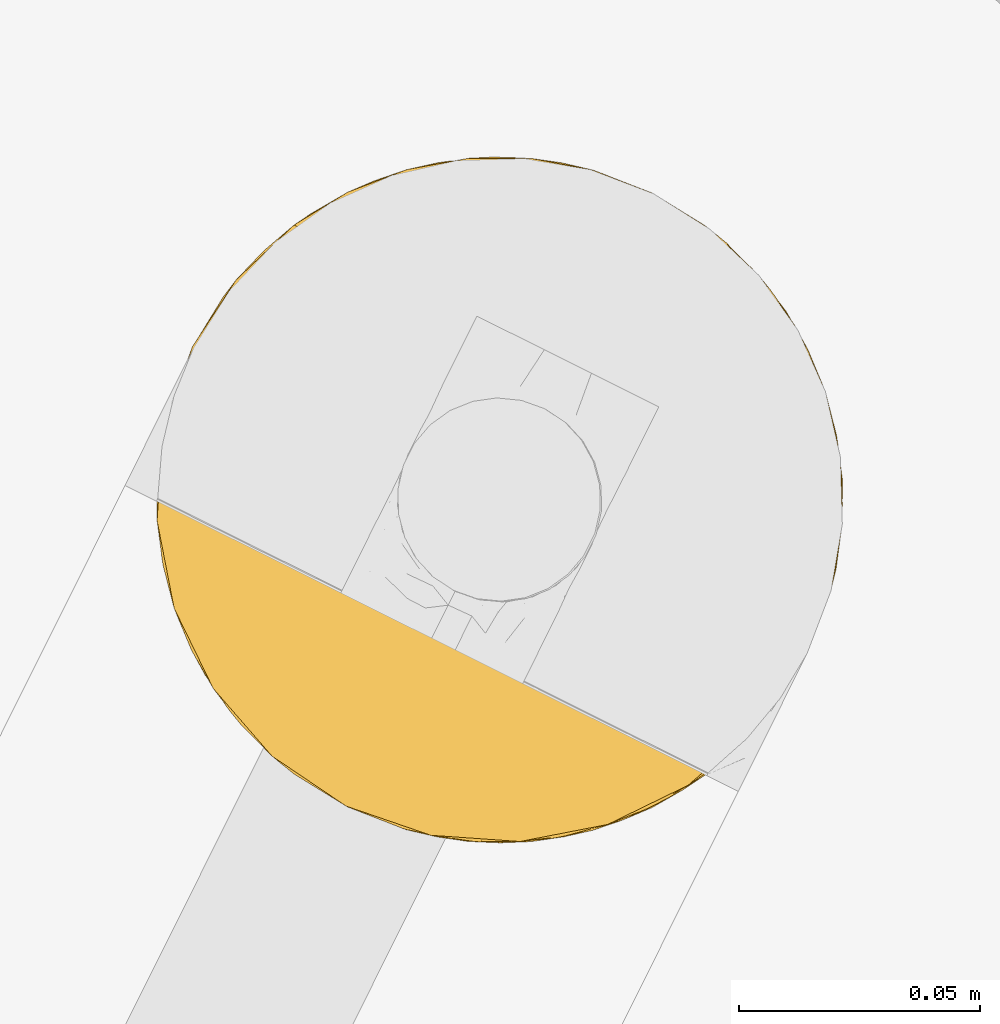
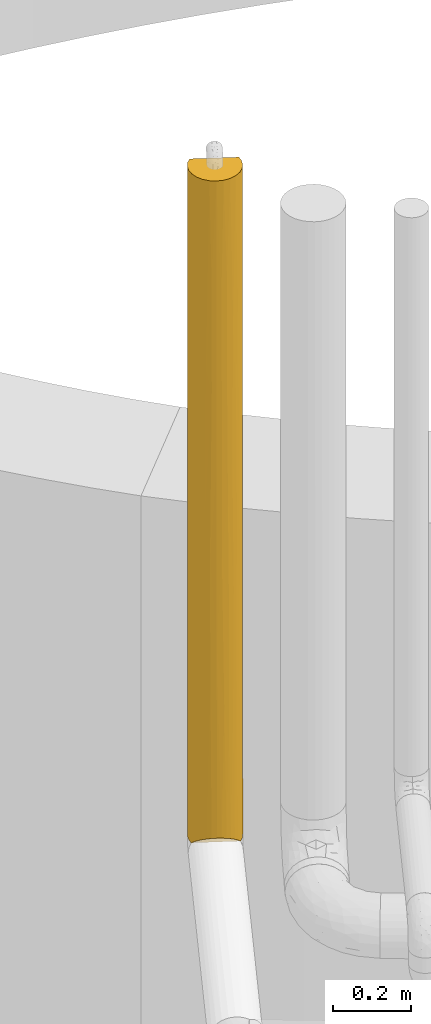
# One storey, part 16 of 47: 1 covering.
"""IFC2X3 building model written with IfcOpenShell, lengths in metres."""

from ifc_helpers import new_model, entity, si_unit, converted_unit, derived_unit, direction, frame, origin, place, context, subcontext, project, spatial, faceted_brep, element, save


model = new_model("IFC2X3")

# Units and contexts
model_context = context("Model", 3, precision=1e-05, world=origin(), true_north=direction((0.894925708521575, 0.446215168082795)))
context_of_model = context(None, 3, precision=1e-05, world=origin(), true_north=direction((0.894925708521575, 0.446215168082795)))
body_context = subcontext(model_context, "Body", "Model", "MODEL_VIEW")
ifc_project = project(units=[si_unit("LENGTHUNIT", "METRE"), si_unit("AREAUNIT", "SQUARE_METRE"), si_unit("VOLUMEUNIT", "CUBIC_METRE"), converted_unit("PLANEANGLEUNIT", "DEGREE", entity("IfcRatioMeasure", 0.0174532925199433), si_unit("PLANEANGLEUNIT", "RADIAN"), dimensions=[0, 0, 0, 0, 0, 0, 0]), si_unit("MASSUNIT", "GRAM", prefix="KILO"), si_unit("TIMEUNIT", "SECOND"), si_unit("FREQUENCYUNIT", "HERTZ"), si_unit("THERMODYNAMICTEMPERATUREUNIT", "DEGREE_CELSIUS"), derived_unit("THERMALTRANSMITTANCEUNIT", [(si_unit("MASSUNIT", "GRAM", prefix="KILO"), 1), (si_unit("THERMODYNAMICTEMPERATUREUNIT", "KELVIN"), -1), (si_unit("TIMEUNIT", "SECOND"), -3)]), derived_unit("VOLUMETRICFLOWRATEUNIT", [(si_unit("LENGTHUNIT", "METRE"), 3), (si_unit("TIMEUNIT", "SECOND"), -1)]), si_unit("ELECTRICCURRENTUNIT", "AMPERE"), si_unit("ELECTRICVOLTAGEUNIT", "VOLT"), si_unit("POWERUNIT", "WATT"), si_unit("FORCEUNIT", "NEWTON", prefix="KILO"), si_unit("ILLUMINANCEUNIT", "LUX"), si_unit("LUMINOUSFLUXUNIT", "LUMEN"), si_unit("LUMINOUSINTENSITYUNIT", "CANDELA"), si_unit("PRESSUREUNIT", "PASCAL")], contexts=[model_context, context_of_model])

# Site, building, storey
site_placement = place(None, frame((218.228324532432, 584.720189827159, 0.0), z_axis=(0.0, 0.0, 1.0), x_axis=(0.446215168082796, 0.894925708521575, 0.0)))
site = spatial("IfcSite", under=ifc_project, at=site_placement, Name="Default", CompositionType="ELEMENT")
building_placement = place(site_placement, origin())
building = spatial("IfcBuilding", under=site, at=building_placement, CompositionType="ELEMENT")
storey_placement = place(building_placement, frame((0.0, 0.0, 4.69)))
storey = spatial("IfcBuildingStorey", under=building, at=storey_placement, Name="1 - Piano Primo", CompositionType="ELEMENT", Elevation=4.69)

# Covering
covering_placement = place(storey_placement, frame((66.896271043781, -1.84654938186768, 2.99039506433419)))
element("IfcCovering", 1, at=covering_placement, inside=storey, Name="Isolamento tubazione:Default", ObjectType="Isolamento tubazione:Default", PredefinedType="INSULATION", context=body_context, shape_type="Brep", body=[
    faceted_brep([(0.0726767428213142, 0.00159527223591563, 0.00161635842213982), (0.0562242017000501, 0.00352552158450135, 0.00161627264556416), (0.0406763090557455, 0.00920583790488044, 0.00161557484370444), (0.0406763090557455, 0.13614870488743, 0.00159527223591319), (0.0562242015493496, 0.141829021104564, 0.00159415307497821), (0.0726767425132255, 0.143759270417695, 0.00159362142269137), (0.0910741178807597, 0.141337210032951, 0.00159375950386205), (0.108217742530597, 0.134236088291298, 0.00159466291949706), (0.122939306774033, 0.122939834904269, 0.00159627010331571), (0.1342355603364, 0.10821827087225, 0.00159847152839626), (0.141336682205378, 0.0910746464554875, 0.00160111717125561), (0.143758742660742, 0.0726772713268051, 0.00160402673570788), (0.141336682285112, 0.0542798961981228, 0.00160700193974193), (0.134235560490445, 0.0371362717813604, 0.00160984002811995), (0.122939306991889, 0.0224147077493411, 0.0016123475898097), (0.108217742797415, 0.0111184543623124, 0.00161435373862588), (0.0910741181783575, 0.004017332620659, 0.00161572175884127), (0.00162314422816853, 0.0730124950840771, 2.09760589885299), (0.00404520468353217, 0.054615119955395, 2.09760880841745), (0.0111463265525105, 0.0374714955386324, 2.09761145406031), (0.0224425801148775, 0.0227499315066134, 2.09761365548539), (0.0371641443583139, 0.0114536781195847, 2.09761526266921), (0.054307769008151, 0.00435255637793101, 2.09761616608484), (0.0727051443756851, 0.00193049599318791, 2.09761630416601), (0.0891547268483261, 0.00386004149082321, 2.09761577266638), (0.104700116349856, 0.00953830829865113, 2.09761465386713), (0.104711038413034, 0.136481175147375, 2.09759435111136), (0.0891606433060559, 0.142163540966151, 2.09759365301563), (0.0727051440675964, 0.144094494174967, 2.09759356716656), (0.0543077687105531, 0.141672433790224, 2.09759420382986), (0.0371641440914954, 0.13457131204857, 2.09759557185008), (0.022442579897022, 0.123275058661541, 2.09759757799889), (0.0111463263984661, 0.108553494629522, 2.09760008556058), (0.00404520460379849, 0.0914098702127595, 2.09760292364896), (0.132518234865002, 0.0344166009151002, 0.731956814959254), (0.136938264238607, 0.0424301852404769, 1.03441297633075), (0.128900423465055, 0.0293320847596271, 1.03197557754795), (0.141906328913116, 0.0567174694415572, 1.59183824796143), (0.139028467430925, 0.0474373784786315, 2.06328303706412), (0.136205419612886, 0.040990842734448, 1.50742583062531), (0.115954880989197, 0.016356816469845, 0.456089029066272), (0.129075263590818, 0.0294687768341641, 0.398552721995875), (0.123989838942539, 0.0235914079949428, 0.713105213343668), (0.109525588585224, 0.0121019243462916, 1.38326051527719), (0.0970877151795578, 0.00617994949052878, 1.68961158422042), (0.0911660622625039, 0.0042269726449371, 1.18494092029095), (0.109461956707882, 0.0121144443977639, 1.71949569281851), (0.115772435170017, 0.0164612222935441, 2.0865416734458), (0.133231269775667, 0.0357360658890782, 2.06908117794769), (0.128761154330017, 0.0292211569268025, 1.51180867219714), (0.125391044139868, 0.0252931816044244, 2.0769222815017), (0.120404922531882, 0.0202488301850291, 1.67237960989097), (0.142648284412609, 0.0602175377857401, 0.66113695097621), (0.141443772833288, 0.0547215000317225, 0.34530760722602), (0.143764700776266, 0.0727475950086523, 0.44130565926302), (0.0998827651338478, 0.00705467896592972, 0.305561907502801), (0.0875778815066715, 0.00325220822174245, 0.49516828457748), (0.121496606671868, 0.021202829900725, 1.29669352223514), (0.0726829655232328, 0.00166871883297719, 0.460844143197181), (0.0877146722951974, 0.00333666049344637, 0.845463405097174), (0.103688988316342, 0.00888285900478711, 1.08179074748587), (0.0998879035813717, 0.0071153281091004, 0.684773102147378), (0.114464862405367, 0.0153152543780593, 0.929855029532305), (0.141714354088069, 0.0558751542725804, 1.17536739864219), (0.143770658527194, 0.0728179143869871, 0.880980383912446), (0.14377863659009, 0.0729120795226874, 1.46975165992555), (0.072701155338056, 0.00188341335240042, 1.80323021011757), (0.143786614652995, 0.0730062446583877, 2.05852293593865), (0.14258695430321, 0.0600021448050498, 2.05972357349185), (0.0843980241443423, 0.00282919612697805, 1.65603684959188), (0.0726971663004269, 0.0018363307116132, 1.50884411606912), (0.0726926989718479, 0.00178360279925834, 1.17916073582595), (0.0726891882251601, 0.00174216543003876, 0.920071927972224), (0.138355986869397, 0.0455702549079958, 0.594893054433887), (0.143766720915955, 0.072771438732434, 0.590389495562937), (0.0726847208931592, 0.00168943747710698, 0.590388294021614), (0.072698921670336, 0.00185704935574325, 1.63838826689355), (0.0409934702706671, 0.00933949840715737, 1.75685499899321), (0.0294277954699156, 0.0165559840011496, 1.70139297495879), (0.0340119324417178, 0.0132484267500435, 1.29055426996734), (0.0245600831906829, 0.0204566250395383, 0.58098342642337), (0.0199881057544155, 0.0249675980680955, 0.0223015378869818), (0.0296053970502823, 0.0161326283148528, 0.0126855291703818), (0.0255604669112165, 0.0196350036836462, 1.05385200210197), (0.0371868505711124, 0.0112449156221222, 0.931240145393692), (0.0538764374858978, 0.0044101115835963, 1.7342073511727), (0.045494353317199, 0.00723639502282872, 1.44174933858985), (0.0603590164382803, 0.00289908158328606, 1.40877462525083), (0.00286682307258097, 0.0595025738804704, 0.923847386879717), (0.00792372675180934, 0.0435624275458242, 1.08522456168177), (0.00288435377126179, 0.059512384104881, 1.3635346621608), (0.00160325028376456, 0.0727776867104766, 0.62945715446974), (0.0015952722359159, 0.0726835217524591, 0.0406869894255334), (0.00279474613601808, 0.0596800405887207, 0.0394895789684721), (0.0163059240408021, 0.0296687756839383, 1.64905483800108), (0.0160829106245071, 0.0297452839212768, 0.435797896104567), (0.0174713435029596, 0.0280423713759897, 0.808252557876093), (0.00922764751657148, 0.0407707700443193, 0.741548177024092), (0.00635268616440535, 0.0471150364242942, 0.0359336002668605), (0.00908312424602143, 0.0409822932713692, 0.332754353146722), (0.00434152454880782, 0.0532006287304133, 0.447535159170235), (0.035663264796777, 0.0120868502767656, 0.563121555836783), (0.0531120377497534, 0.00448547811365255, 0.884774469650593), (0.0517553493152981, 0.00481526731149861, 0.436627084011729), (0.00161516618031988, 0.0729183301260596, 1.50883573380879), (0.00269017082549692, 0.0606590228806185, 1.74587928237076), (0.0121490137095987, 0.0354125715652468, 0.0301390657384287), (0.00676804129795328, 0.0464035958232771, 1.79788398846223), (0.00161122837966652, 0.0728718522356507, 1.2182308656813), (0.0145315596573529, 0.0320078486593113, 1.21852220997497), (0.0233531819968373, 0.0217353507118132, 1.40292104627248), (0.007024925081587, 0.0457041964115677, 1.43236913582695), (0.00161718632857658, 0.0729421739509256, 1.65792020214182), (0.0294270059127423, 0.129332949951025, 1.64312089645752), (0.0163066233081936, 0.116220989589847, 1.70065720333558), (0.0166184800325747, 0.116465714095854, 0.587364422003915), (0.0164793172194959, 0.116354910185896, 1.06724359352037), (0.0238813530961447, 0.124483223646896, 0.802487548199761), (0.00273363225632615, 0.0854723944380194, 1.43807297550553), (0.00702590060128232, 0.100119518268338, 1.50435900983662), (0.00283143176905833, 0.0860353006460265, 1.7811454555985), (0.0199881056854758, 0.120393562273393, 0.0222862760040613), (0.0121490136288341, 0.10995109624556, 0.0301271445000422), (0.045499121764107, 0.138635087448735, 1.7936480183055), (0.00917534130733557, 0.104696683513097, 0.591781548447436), (0.00347528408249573, 0.0889711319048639, 0.507411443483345), (0.00366725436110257, 0.0898134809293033, 0.923842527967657), (0.0609814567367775, 0.142860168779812, 0.443173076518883), (0.0482898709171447, 0.139508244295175, 0.409588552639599), (0.0358631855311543, 0.133532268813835, 0.322188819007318), (0.0358514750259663, 0.13358491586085, 0.715922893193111), (0.0249735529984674, 0.125437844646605, 0.426809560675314), (0.0578040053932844, 0.142437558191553, 1.60404164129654), (0.0454939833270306, 0.138574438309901, 1.41443682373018), (0.0727011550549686, 0.144047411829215, 1.80320931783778), (0.0726989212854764, 0.144021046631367, 1.63835986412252), (0.008442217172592, 0.103256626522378, 1.06490871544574), (0.0309171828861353, 0.130374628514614, 1.16936434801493), (0.0296053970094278, 0.129225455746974, 0.0126674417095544), (0.00635268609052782, 0.0982504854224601, 0.0359254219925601), (0.0027947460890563, 0.0856866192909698, 0.0394854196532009), (0.0726807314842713, 0.143806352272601, 0.295974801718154), (0.0576668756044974, 0.14235303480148, 1.25376055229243), (0.0426192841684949, 0.137257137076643, 1.07953846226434), (0.0542117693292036, 0.141461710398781, 0.914321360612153), (0.0128636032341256, 0.111273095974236, 1.36730024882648), (0.0213919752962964, 0.122098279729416, 1.38608461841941), (0.0726847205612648, 0.143853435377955, 0.590363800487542), (0.0726829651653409, 0.143832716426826, 0.460817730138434), (0.0726926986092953, 0.143947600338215, 1.17913397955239), (0.072689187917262, 0.143906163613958, 0.920049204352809), (0.0726971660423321, 0.144000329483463, 1.508825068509), (0.142691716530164, 0.0850307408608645, 0.353330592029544), (0.138356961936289, 0.0999855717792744, 0.666851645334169), (0.142497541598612, 0.0861773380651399, 0.735675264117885), (0.0840652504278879, 0.143054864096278, 1.32050133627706), (0.0935620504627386, 0.14078747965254, 1.01142779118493), (0.108412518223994, 0.134388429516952, 1.58196966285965), (0.097092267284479, 0.139663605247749, 1.39081266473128), (0.0970974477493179, 0.139724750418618, 1.77312527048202), (0.139029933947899, 0.0985728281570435, 2.06327779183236), (0.142587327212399, 0.0860087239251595, 2.05972127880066), (0.141040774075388, 0.0924877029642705, 1.65169792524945), (0.0851524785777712, 0.142769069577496, 0.698748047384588), (0.0912810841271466, 0.141341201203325, 0.366990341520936), (0.0848223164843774, 0.142982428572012, 1.65601442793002), (0.10732625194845, 0.134930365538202, 1.12466171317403), (0.0998875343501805, 0.138453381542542, 0.657523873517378), (0.123068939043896, 0.12293697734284, 0.733995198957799), (0.115954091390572, 0.129133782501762, 0.397817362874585), (0.112684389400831, 0.131558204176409, 0.751648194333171), (0.129603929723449, 0.115513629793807, 1.51467045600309), (0.125396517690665, 0.120719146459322, 2.0769097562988), (0.135561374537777, 0.106135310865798, 1.7219061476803), (0.104288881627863, 0.136399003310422, 0.337703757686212), (0.115780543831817, 0.129554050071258, 2.08652520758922), (0.120321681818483, 0.125698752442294, 1.57578813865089), (0.142515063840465, 0.0861871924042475, 1.17536253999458), (0.136155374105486, 0.104916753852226, 1.35769454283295), (0.133234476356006, 0.110274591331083, 2.06907246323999), (0.129075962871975, 0.116020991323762, 0.450158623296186), (0.138613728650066, 0.0992864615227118, 0.301329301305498), (0.130850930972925, 0.113681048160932, 0.880630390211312), (0.119824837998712, 0.126051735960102, 1.04536312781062), (0.130292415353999, 0.114521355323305, 1.19785013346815), (0.137458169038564, 0.102127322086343, 1.0140006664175)], [[[0, 1, 2, 3, 4, 5, 6, 7, 8, 9, 10, 11, 12, 13, 14, 15, 16]], [[17, 18, 19, 20, 21, 22, 23, 24, 25, 26, 27, 28, 29, 30, 31, 32, 33]], [[34, 35, 36]], [[37, 38, 39]], [[40, 41, 42]], [[43, 44, 45]], [[46, 47, 25]], [[40, 14, 41]], [[39, 38, 48]], [[49, 48, 50]], [[51, 49, 50]], [[52, 53, 54]], [[11, 54, 53]], [[16, 55, 56]], [[46, 44, 43]], [[12, 53, 13]], [[49, 51, 57]], [[25, 24, 44]], [[58, 56, 59]], [[60, 61, 62]], [[63, 64, 65]], [[16, 15, 55]], [[39, 63, 37]], [[50, 47, 51]], [[24, 23, 66]], [[40, 61, 55]], [[62, 61, 40]], [[15, 14, 40]], [[51, 46, 43]], [[67, 68, 37]], [[57, 51, 43]], [[63, 65, 37]], [[14, 13, 41]], [[16, 56, 0]], [[62, 43, 60]], [[24, 66, 69]], [[45, 70, 71, 72]], [[44, 69, 45]], [[59, 56, 61]], [[13, 73, 41]], [[52, 54, 74, 64]], [[42, 34, 36]], [[42, 62, 40]], [[57, 62, 36]], [[35, 39, 36]], [[63, 35, 52]], [[62, 57, 43]], [[49, 36, 39]], [[36, 49, 57]], [[48, 49, 39]], [[63, 52, 64]], [[53, 52, 73]], [[13, 53, 73]], [[53, 12, 11]], [[40, 55, 15]], [[56, 55, 61]], [[60, 59, 61]], [[56, 58, 0]], [[45, 72, 59]], [[59, 72, 75, 58]], [[67, 37, 65]], [[38, 37, 68]], [[34, 41, 73]], [[62, 42, 36]], [[41, 34, 42]], [[73, 52, 35]], [[73, 35, 34]], [[39, 35, 63]], [[47, 46, 51]], [[25, 44, 46]], [[69, 66, 76, 70]], [[45, 69, 70]], [[24, 69, 44]], [[43, 45, 60]], [[60, 45, 59]], [[77, 78, 79]], [[80, 81, 82]], [[21, 20, 78]], [[83, 84, 79]], [[85, 86, 87]], [[88, 89, 90]], [[91, 92, 93]], [[94, 78, 20]], [[20, 19, 94]], [[87, 71, 70, 76]], [[95, 96, 97]], [[98, 99, 100]], [[80, 82, 101]], [[80, 83, 96]], [[2, 101, 82]], [[102, 103, 75]], [[102, 75, 72, 71]], [[100, 93, 98]], [[104, 90, 105]], [[1, 103, 2]], [[103, 0, 58, 75]], [[81, 95, 106]], [[102, 101, 103]], [[95, 99, 106]], [[107, 18, 105]], [[90, 104, 108]], [[107, 94, 19]], [[100, 99, 97]], [[109, 83, 110]], [[88, 90, 108]], [[88, 100, 97]], [[91, 93, 100]], [[109, 94, 111]], [[79, 78, 110]], [[105, 17, 112, 104]], [[22, 85, 23]], [[108, 91, 88]], [[111, 107, 105]], [[100, 88, 91]], [[97, 96, 89]], [[111, 105, 90]], [[17, 105, 18]], [[110, 78, 94]], [[77, 86, 85]], [[87, 102, 71]], [[86, 79, 84]], [[94, 107, 111]], [[19, 18, 107]], [[89, 109, 111]], [[109, 89, 96]], [[80, 96, 95]], [[109, 96, 83]], [[80, 95, 81]], [[80, 101, 84]], [[85, 76, 66, 23]], [[102, 87, 86]], [[76, 85, 87]], [[77, 22, 21]], [[22, 77, 85]], [[21, 78, 77]], [[90, 89, 111]], [[88, 97, 89]], [[106, 99, 98]], [[97, 99, 95]], [[109, 110, 94]], [[79, 110, 83]], [[80, 84, 83]], [[79, 86, 77]], [[101, 102, 84]], [[86, 84, 102]], [[2, 103, 101]], [[103, 1, 0]], [[31, 113, 114]], [[115, 116, 117]], [[118, 108, 104, 112]], [[119, 118, 120]], [[115, 121, 122]], [[30, 29, 123]], [[113, 30, 123]], [[124, 125, 126]], [[127, 4, 128]], [[91, 126, 125]], [[128, 129, 130]], [[117, 130, 131]], [[32, 119, 33]], [[32, 31, 114]], [[132, 133, 123]], [[129, 128, 3]], [[132, 28, 134, 135]], [[136, 124, 126]], [[133, 137, 113]], [[128, 4, 3]], [[31, 30, 113]], [[138, 131, 129]], [[125, 139, 140]], [[121, 131, 138]], [[139, 124, 122]], [[92, 91, 125]], [[126, 91, 108]], [[124, 115, 122]], [[5, 4, 141]], [[132, 142, 133]], [[133, 143, 137]], [[144, 143, 142]], [[145, 114, 146]], [[144, 128, 130]], [[127, 147, 148, 141]], [[130, 137, 143]], [[144, 149, 150, 147]], [[146, 114, 113]], [[33, 120, 17]], [[119, 32, 114]], [[117, 137, 130]], [[146, 137, 116]], [[118, 126, 108]], [[119, 145, 136]], [[115, 117, 131]], [[137, 117, 116]], [[115, 131, 121]], [[116, 115, 124]], [[120, 118, 112]], [[118, 119, 136]], [[17, 120, 112]], [[119, 120, 33]], [[29, 28, 132]], [[113, 123, 133]], [[29, 132, 123]], [[142, 135, 151, 149]], [[135, 142, 132]], [[149, 144, 142]], [[139, 125, 124]], [[92, 125, 140]], [[137, 146, 113]], [[145, 146, 116]], [[136, 145, 116]], [[114, 145, 119]], [[124, 136, 116]], [[136, 126, 118]], [[138, 129, 3]], [[130, 129, 131]], [[127, 144, 147]], [[4, 127, 141]], [[144, 127, 128]], [[142, 143, 133]], [[130, 143, 144]], [[152, 153, 154]], [[150, 155, 156]], [[157, 158, 159]], [[160, 161, 162]], [[163, 164, 148]], [[27, 26, 159]], [[152, 154, 74]], [[155, 151, 165]], [[166, 167, 156]], [[164, 5, 141, 148]], [[168, 169, 170]], [[161, 67, 65]], [[171, 172, 173]], [[161, 65, 162]], [[164, 174, 6]], [[175, 176, 157]], [[177, 64, 154]], [[162, 173, 160]], [[178, 173, 162]], [[175, 172, 176]], [[172, 179, 173]], [[180, 153, 181]], [[9, 8, 180]], [[182, 153, 180]], [[152, 181, 153]], [[176, 183, 166]], [[8, 169, 180]], [[184, 176, 171]], [[65, 64, 177]], [[165, 151, 135, 134]], [[177, 162, 65]], [[8, 7, 169]], [[27, 134, 28]], [[170, 183, 168]], [[74, 154, 64]], [[156, 163, 150]], [[11, 10, 152]], [[153, 182, 185]], [[185, 154, 153]], [[162, 177, 178]], [[152, 74, 54, 11]], [[152, 10, 181]], [[167, 174, 164]], [[169, 174, 170]], [[10, 9, 181]], [[180, 181, 9]], [[26, 175, 157]], [[165, 27, 159]], [[158, 155, 165]], [[27, 165, 134]], [[158, 165, 159]], [[156, 155, 158]], [[155, 150, 149, 151]], [[166, 156, 158]], [[156, 167, 163]], [[166, 158, 157]], [[166, 183, 170]], [[164, 163, 167]], [[163, 148, 147, 150]], [[170, 174, 167]], [[164, 6, 5]], [[157, 159, 26]], [[166, 157, 176]], [[169, 7, 174]], [[6, 174, 7]], [[183, 176, 184]], [[182, 184, 185]], [[171, 173, 178]], [[160, 173, 179]], [[171, 178, 184]], [[172, 171, 176]], [[185, 184, 178]], [[183, 184, 182]], [[178, 177, 185]], [[154, 185, 177]], [[166, 170, 167]], [[183, 182, 168]], [[182, 180, 168]], [[169, 168, 180]], [[93, 92, 140, 139, 122, 121, 138, 3, 2, 82, 81, 106, 98]], [[175, 26, 25, 47, 50, 48, 38, 68, 67, 161, 160, 179, 172]]]),
])

save(model, "model.ifc")
